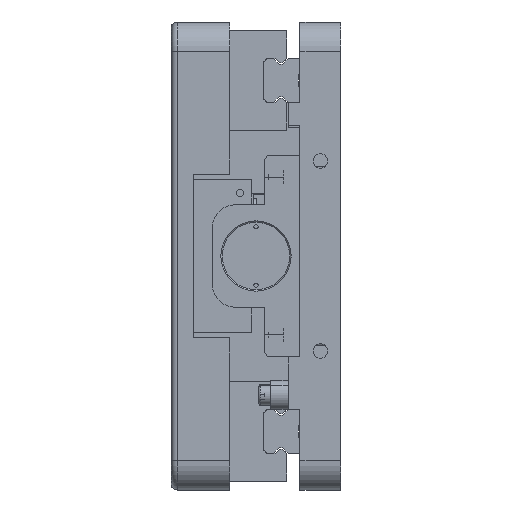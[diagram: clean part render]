
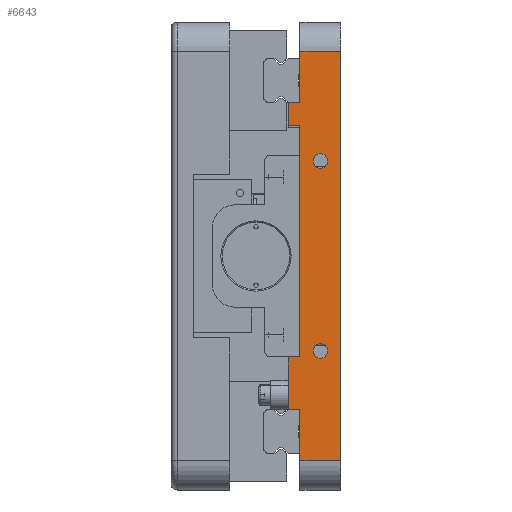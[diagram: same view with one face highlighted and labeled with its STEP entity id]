
A CAD part, left-side view. The second image highlights one B-rep face of the part: STEP entity #6643.
In plain terms, the highlighted planar face has unit normal (-1, 0, 0).
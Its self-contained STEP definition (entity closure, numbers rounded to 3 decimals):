
#390 = VECTOR ( 'NONE', #12293, 1000. ) ;
#2155 = EDGE_CURVE ( 'NONE', #46388, #14044, #78737, .T. ) ;
#2223 = LINE ( 'NONE', #58101, #30728 ) ;
#2474 = VECTOR ( 'NONE', #89699, 1000. ) ;
#2974 = EDGE_LOOP ( 'NONE', ( #10114, #54403 ) ) ;
#3353 = EDGE_CURVE ( 'NONE', #46388, #38998, #53529, .T. ) ;
#3619 = DIRECTION ( 'NONE',  ( -1., 0., 0. ) ) ;
#6609 = VERTEX_POINT ( 'NONE', #10931 ) ;
#6643 = ADVANCED_FACE ( 'NONE', ( #52680, #80001, #36179 ), #86778, .F. ) ;
#6933 = DIRECTION ( 'NONE',  ( -1., 0., 0. ) ) ;
#7203 = CARTESIAN_POINT ( 'NONE',  ( -211.5, 7., -35. ) ) ;
#7376 = CIRCLE ( 'NONE', #22630, 2.5 ) ;
#7510 = DIRECTION ( 'NONE',  ( 0., 1., 0. ) ) ;
#7795 = LINE ( 'NONE', #46124, #70641 ) ;
#9080 = LINE ( 'NONE', #22904, #67131 ) ;
#9131 = AXIS2_PLACEMENT_3D ( 'NONE', #61408, #75021, #76006 ) ;
#10114 = ORIENTED_EDGE ( 'NONE', *, *, #32292, .F. ) ;
#10931 = CARTESIAN_POINT ( 'NONE',  ( -211.5, 7., 30. ) ) ;
#11658 = CARTESIAN_POINT ( 'NONE',  ( -211.5, 7., -30. ) ) ;
#11994 = VERTEX_POINT ( 'NONE', #55840 ) ;
#12293 = DIRECTION ( 'NONE',  ( 0., 0., -1. ) ) ;
#13132 = LINE ( 'NONE', #36134, #2474 ) ;
#13305 = ORIENTED_EDGE ( 'NONE', *, *, #3353, .F. ) ;
#14044 = VERTEX_POINT ( 'NONE', #72759 ) ;
#14546 = ORIENTED_EDGE ( 'NONE', *, *, #57248, .F. ) ;
#15254 = VERTEX_POINT ( 'NONE', #15385 ) ;
#15385 = CARTESIAN_POINT ( 'NONE',  ( -211.5, 14., 70. ) ) ;
#18075 = EDGE_CURVE ( 'NONE', #56452, #87099, #7795, .T. ) ;
#20582 = DIRECTION ( 'NONE',  ( 0., 0., 1. ) ) ;
#20750 = CARTESIAN_POINT ( 'NONE',  ( -211.5, 14., -52.5 ) ) ;
#20755 = ORIENTED_EDGE ( 'NONE', *, *, #51269, .F. ) ;
#20860 = CARTESIAN_POINT ( 'NONE',  ( -211.5, 18., 44.5 ) ) ;
#21182 = ORIENTED_EDGE ( 'NONE', *, *, #34165, .T. ) ;
#21405 = LINE ( 'NONE', #58741, #39244 ) ;
#21518 = VECTOR ( 'NONE', #7510, 1000. ) ;
#22630 = AXIS2_PLACEMENT_3D ( 'NONE', #56671, #3619, #34811 ) ;
#22668 = LINE ( 'NONE', #41493, #35711 ) ;
#22699 = EDGE_CURVE ( 'NONE', #14044, #75974, #21405, .T. ) ;
#22904 = CARTESIAN_POINT ( 'NONE',  ( -211.5, 14., -80. ) ) ;
#22935 = DIRECTION ( 'NONE',  ( 0., 0., 1. ) ) ;
#22977 = EDGE_CURVE ( 'NONE', #33141, #56452, #62880, .T. ) ;
#23437 = ORIENTED_EDGE ( 'NONE', *, *, #78898, .T. ) ;
#24114 = CARTESIAN_POINT ( 'NONE',  ( -211.5, 14., 52.5 ) ) ;
#24568 = CARTESIAN_POINT ( 'NONE',  ( -211.5, 0., -70. ) ) ;
#27145 = EDGE_LOOP ( 'NONE', ( #21182, #49636, #31332, #37296, #60646, #23437, #71621, #13305, #71259, #34967, #20755, #41599 ) ) ;
#27625 = DIRECTION ( 'NONE',  ( 0., 1., 0. ) ) ;
#27702 = DIRECTION ( 'NONE',  ( 0., 1., 0. ) ) ;
#30728 = VECTOR ( 'NONE', #51467, 1000. ) ;
#31332 = ORIENTED_EDGE ( 'NONE', *, *, #18075, .T. ) ;
#32292 = EDGE_CURVE ( 'NONE', #11994, #6609, #56815, .T. ) ;
#33141 = VERTEX_POINT ( 'NONE', #85043 ) ;
#34165 = EDGE_CURVE ( 'NONE', #53897, #33141, #9080, .T. ) ;
#34811 = DIRECTION ( 'NONE',  ( 0., 0., 1. ) ) ;
#34967 = ORIENTED_EDGE ( 'NONE', *, *, #22699, .T. ) ;
#35711 = VECTOR ( 'NONE', #41167, 1000. ) ;
#36134 = CARTESIAN_POINT ( 'NONE',  ( -211.5, -423.893, 52.5 ) ) ;
#36179 = FACE_OUTER_BOUND ( 'NONE', #27145, .T. ) ;
#37296 = ORIENTED_EDGE ( 'NONE', *, *, #94522, .T. ) ;
#37474 = DIRECTION ( 'NONE',  ( 0., 0., 1. ) ) ;
#38404 = CARTESIAN_POINT ( 'NONE',  ( -211.5, 18., -52.5 ) ) ;
#38998 = VERTEX_POINT ( 'NONE', #20860 ) ;
#39244 = VECTOR ( 'NONE', #90138, 1000. ) ;
#41167 = DIRECTION ( 'NONE',  ( 0., 0., 1. ) ) ;
#41493 = CARTESIAN_POINT ( 'NONE',  ( -211.5, 18., -80. ) ) ;
#41599 = ORIENTED_EDGE ( 'NONE', *, *, #73984, .F. ) ;
#43871 = VECTOR ( 'NONE', #48414, 1000. ) ;
#44632 = CARTESIAN_POINT ( 'NONE',  ( -211.5, 18., 70. ) ) ;
#45891 = EDGE_CURVE ( 'NONE', #38998, #75504, #22668, .T. ) ;
#46124 = CARTESIAN_POINT ( 'NONE',  ( -211.5, 0., -80. ) ) ;
#46388 = VERTEX_POINT ( 'NONE', #89023 ) ;
#47471 = AXIS2_PLACEMENT_3D ( 'NONE', #88393, #58580, #73800 ) ;
#48414 = DIRECTION ( 'NONE',  ( 0., -1., 0. ) ) ;
#48759 = CIRCLE ( 'NONE', #93100, 2.5 ) ;
#49077 = CARTESIAN_POINT ( 'NONE',  ( -211.5, 18., -70. ) ) ;
#49636 = ORIENTED_EDGE ( 'NONE', *, *, #22977, .T. ) ;
#49947 = EDGE_CURVE ( 'NONE', #6609, #11994, #85996, .T. ) ;
#50221 = CARTESIAN_POINT ( 'NONE',  ( -211.5, -423.893, -52.5 ) ) ;
#51269 = EDGE_CURVE ( 'NONE', #74997, #75974, #92052, .T. ) ;
#51467 = DIRECTION ( 'NONE',  ( 0., 0., -1. ) ) ;
#52357 = CARTESIAN_POINT ( 'NONE',  ( -211.5, 7., 32.5 ) ) ;
#52363 = LINE ( 'NONE', #50221, #77304 ) ;
#52680 = FACE_BOUND ( 'NONE', #52722, .T. ) ;
#52722 = EDGE_LOOP ( 'NONE', ( #14546, #74558 ) ) ;
#53529 = LINE ( 'NONE', #89174, #79598 ) ;
#53897 = VERTEX_POINT ( 'NONE', #20750 ) ;
#54403 = ORIENTED_EDGE ( 'NONE', *, *, #49947, .F. ) ;
#55458 = CARTESIAN_POINT ( 'NONE',  ( -211.5, 18., 52.5 ) ) ;
#55840 = CARTESIAN_POINT ( 'NONE',  ( -211.5, 7., 35. ) ) ;
#56452 = VERTEX_POINT ( 'NONE', #24568 ) ;
#56671 = CARTESIAN_POINT ( 'NONE',  ( -211.5, 7., -32.5 ) ) ;
#56815 = CIRCLE ( 'NONE', #9131, 2.5 ) ;
#57248 = EDGE_CURVE ( 'NONE', #83623, #74908, #7376, .T. ) ;
#57514 = CARTESIAN_POINT ( 'NONE',  ( -211.5, 7., -32.5 ) ) ;
#57830 = EDGE_CURVE ( 'NONE', #74908, #83623, #48759, .T. ) ;
#58101 = CARTESIAN_POINT ( 'NONE',  ( -211.5, 14., 80. ) ) ;
#58580 = DIRECTION ( 'NONE',  ( 1., 0., 0. ) ) ;
#58741 = CARTESIAN_POINT ( 'NONE',  ( -211.5, -110.209, -34.5 ) ) ;
#60646 = ORIENTED_EDGE ( 'NONE', *, *, #62201, .T. ) ;
#60808 = AXIS2_PLACEMENT_3D ( 'NONE', #52357, #6933, #37474 ) ;
#60959 = VERTEX_POINT ( 'NONE', #24114 ) ;
#61408 = CARTESIAN_POINT ( 'NONE',  ( -211.5, 7., 32.5 ) ) ;
#62201 = EDGE_CURVE ( 'NONE', #15254, #60959, #2223, .T. ) ;
#62880 = LINE ( 'NONE', #49077, #43871 ) ;
#65983 = CARTESIAN_POINT ( 'NONE',  ( -211.5, 18., -80. ) ) ;
#67131 = VECTOR ( 'NONE', #98006, 1000. ) ;
#69254 = CARTESIAN_POINT ( 'NONE',  ( -211.5, 18., -34.5 ) ) ;
#70641 = VECTOR ( 'NONE', #22935, 1000. ) ;
#71259 = ORIENTED_EDGE ( 'NONE', *, *, #2155, .T. ) ;
#71621 = ORIENTED_EDGE ( 'NONE', *, *, #45891, .F. ) ;
#72759 = CARTESIAN_POINT ( 'NONE',  ( -211.5, 14., -34.5 ) ) ;
#73166 = VECTOR ( 'NONE', #20582, 1000. ) ;
#73368 = DIRECTION ( 'NONE',  ( -1., 0., 0. ) ) ;
#73800 = DIRECTION ( 'NONE',  ( 0., 0., -1. ) ) ;
#73984 = EDGE_CURVE ( 'NONE', #53897, #74997, #52363, .T. ) ;
#74558 = ORIENTED_EDGE ( 'NONE', *, *, #57830, .F. ) ;
#74908 = VERTEX_POINT ( 'NONE', #7203 ) ;
#74997 = VERTEX_POINT ( 'NONE', #38404 ) ;
#75021 = DIRECTION ( 'NONE',  ( -1., 0., 0. ) ) ;
#75504 = VERTEX_POINT ( 'NONE', #55458 ) ;
#75974 = VERTEX_POINT ( 'NONE', #69254 ) ;
#76006 = DIRECTION ( 'NONE',  ( 0., 0., 1. ) ) ;
#77304 = VECTOR ( 'NONE', #27702, 1000. ) ;
#78737 = LINE ( 'NONE', #87168, #390 ) ;
#78898 = EDGE_CURVE ( 'NONE', #60959, #75504, #13132, .T. ) ;
#79598 = VECTOR ( 'NONE', #27625, 1000. ) ;
#80001 = FACE_BOUND ( 'NONE', #2974, .T. ) ;
#80874 = LINE ( 'NONE', #44632, #21518 ) ;
#83623 = VERTEX_POINT ( 'NONE', #11658 ) ;
#85043 = CARTESIAN_POINT ( 'NONE',  ( -211.5, 14., -70. ) ) ;
#85996 = CIRCLE ( 'NONE', #60808, 2.5 ) ;
#86778 = PLANE ( 'NONE',  #47471 ) ;
#87099 = VERTEX_POINT ( 'NONE', #94409 ) ;
#87168 = CARTESIAN_POINT ( 'NONE',  ( -211.5, 14., 44.5 ) ) ;
#87973 = DIRECTION ( 'NONE',  ( 0., 0., 1. ) ) ;
#88393 = CARTESIAN_POINT ( 'NONE',  ( -211.5, 18., -80. ) ) ;
#89023 = CARTESIAN_POINT ( 'NONE',  ( -211.5, 14., 44.5 ) ) ;
#89174 = CARTESIAN_POINT ( 'NONE',  ( -211.5, -110.209, 44.5 ) ) ;
#89699 = DIRECTION ( 'NONE',  ( 0., 1., 0. ) ) ;
#90138 = DIRECTION ( 'NONE',  ( 0., 1., 0. ) ) ;
#92052 = LINE ( 'NONE', #65983, #73166 ) ;
#93100 = AXIS2_PLACEMENT_3D ( 'NONE', #57514, #73368, #87973 ) ;
#94409 = CARTESIAN_POINT ( 'NONE',  ( -211.5, 0., 70. ) ) ;
#94522 = EDGE_CURVE ( 'NONE', #87099, #15254, #80874, .T. ) ;
#98006 = DIRECTION ( 'NONE',  ( 0., 0., -1. ) ) ;
